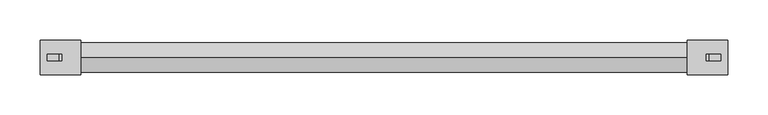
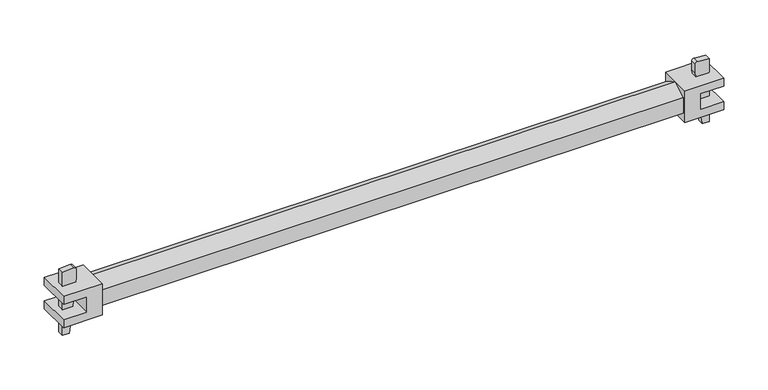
"""IFC4 building model written with IfcOpenShell, lengths in millimetres: proxy geometry, AK_アルバトロスＡＫ布材L=900_軽 : AK_アルバトロスＡＫ布材L=900_軽."""

from ifc_helpers import new_model, si_unit, point, frame, frame_2d, origin, place, context, project, spatial, polyline, circle_curve, trimmed, segment, composite_curve, outline, extrude, source, transform, mapped, element, save


def generic_models_fc53304d(model_context):
    return source(origin(), model_context, "Body", "SweptSolid", [
        extrude(outline(polyline([(-10.75, 21.0591948), (-21.5, 21.0591948), (-21.5, 71.4999948), (21.5, 71.4999948), (21.5, 21.0591948), (10.75, 21.0591948), (10.75, 51.2999948), (-10.75, 51.2999948), (-10.75, 21.0591948)])), frame((0.0, -21.5, 0.0), z_axis=(0.0, 1.0, 0.0), x_axis=(0.0, 0.0, 1.0)), (0.0, 0.0, 1.0), 43.0),
        extrude(outline(composite_curve([segment(trimmed(circle_curve(frame_2d((39.0692, 44.7999948)), 3.0), [point((39.0692, 47.7999948))], [point((42.0590201, 44.5530624))], False, "CARTESIAN"), True, "CONTINUOUS"), segment(polyline([(42.0590201, 44.5530624), (40.7682926, 29.7999948), (-45.68165, 29.7999948), (-45.68165, 38.5388196), (27.3200065, 47.7999948), (39.0692, 47.7999948)]), True, "CONTINUOUS")], self_intersect=False)), frame((0.0, -4.0, 0.0), z_axis=(0.0, 1.0, 0.0), x_axis=(0.0, 0.0, 1.0)), (0.0, 0.0, 1.0), 8.0),
        extrude(outline(polyline([(-10.75, 878.9408052), (-10.75, 848.7000052), (10.75, 848.7000052), (10.75, 878.9408052), (21.5, 878.9408052), (21.5, 828.5000052), (-21.5, 828.5000052), (-21.5, 878.9408052), (-10.75, 878.9408052)])), frame((0.0, -21.5, 0.0), z_axis=(0.0, 1.0, 0.0), x_axis=(0.0, 0.0, 1.0)), (0.0, 0.0, 1.0), 43.0),
        extrude(outline(composite_curve([segment(polyline([(39.0692, 852.2000052), (27.3200065, 852.2000052), (-45.68165, 861.4611804), (-45.68165, 870.2000052), (40.7682926, 870.2000052), (42.0590201, 855.4469376)]), True, "CONTINUOUS"), segment(trimmed(circle_curve(frame_2d((39.0692, 855.2000052)), 3.0), [point((42.0590201, 855.4469376))], [point((39.0692, 852.2000052))], False, "CARTESIAN"), True, "CONTINUOUS")], self_intersect=False)), frame((0.0, -4.0, 0.0), z_axis=(0.0, 1.0, 0.0), x_axis=(0.0, 0.0, 1.0)), (0.0, 0.0, 1.0), 8.0),
        extrude(outline(polyline([(-18.4896424, 10.675), (0.0, 21.35), (18.4896424, 10.675), (18.4896424, -10.675), (0.0, -21.35), (-18.4896424, -10.675), (-18.4896424, 10.675)])), frame((71.4999948, 0.0, 0.0), z_axis=(1.0, 0.0, 0.0), x_axis=(0.0, 1.0, 0.0)), (0.0, 0.0, 1.0), 757.0000103),
    ])


if __name__ == "__main__":
    model = new_model("IFC4")
    model_context = context("Model", 3, world=origin())
    ifc_project = project(units=[si_unit("LENGTHUNIT", "METRE", prefix="MILLI")], contexts=[model_context])
    site = spatial("IfcSite", under=ifc_project)
    building = spatial("IfcBuilding", under=site)
    placement = place(None, origin())
    generic_models_shape = generic_models_fc53304d(model_context)
    element("IfcBuildingElementProxy", 1, Name="AK_アルバトロスＡＫ布材L=900_軽 : AK_アルバトロスＡＫ布材L=900_軽", ObjectType="AK_アルバトロスＡＫ布材L=900_軽 : AK_アルバトロスＡＫ布材L=900_軽", at=placement, inside=building, context=model_context, shape_type="MappedRepresentation", body=[
        mapped(generic_models_shape, transform((0.0, 0.0, 0.0), x_axis=(1.0, 0.0, 0.0), y_axis=(0.0, 1.0, 0.0), z_axis=(0.0, 0.0, 1.0))),
    ])
    save(model, "model.ifc")
